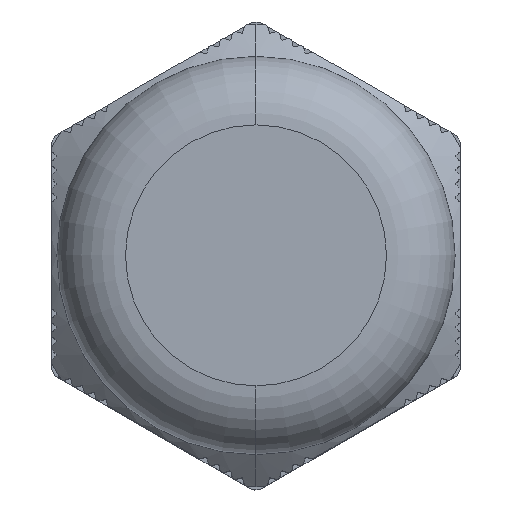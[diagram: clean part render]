
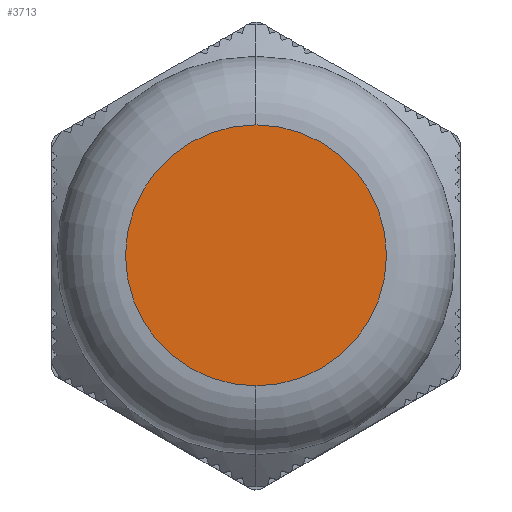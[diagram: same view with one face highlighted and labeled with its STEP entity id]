
A CAD part, top view. The second image highlights one B-rep face of the part: STEP entity #3713.
In plain terms, the highlighted planar face has unit normal (0, 0, 1).
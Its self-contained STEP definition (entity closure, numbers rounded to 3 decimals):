
#126 = AXIS2_PLACEMENT_3D ( 'NONE', #765, #7810, #1765 ) ;
#425 = VERTEX_POINT ( 'NONE', #6627 ) ;
#518 = CARTESIAN_POINT ( 'NONE',  ( 0., -13.3, 56.321 ) ) ;
#765 = CARTESIAN_POINT ( 'NONE',  ( 0., 0., 56.321 ) ) ;
#801 = ORIENTED_EDGE ( 'NONE', *, *, #9404, .F. ) ;
#1327 = ORIENTED_EDGE ( 'NONE', *, *, #3700, .F. ) ;
#1765 = DIRECTION ( 'NONE',  ( -1., 0., 0. ) ) ;
#1858 = EDGE_LOOP ( 'NONE', ( #801, #1327 ) ) ;
#2147 = AXIS2_PLACEMENT_3D ( 'NONE', #11807, #8808, #2777 ) ;
#2777 = DIRECTION ( 'NONE',  ( 0., -1., 0. ) ) ;
#3700 = EDGE_CURVE ( 'NONE', #425, #11783, #9773, .T. ) ;
#3713 = ADVANCED_FACE ( 'NONE', ( #12437 ), #12834, .T. ) ;
#4049 = AXIS2_PLACEMENT_3D ( 'NONE', #11855, #5837, #12875 ) ;
#5837 = DIRECTION ( 'NONE',  ( 0., 0., -1. ) ) ;
#6627 = CARTESIAN_POINT ( 'NONE',  ( 0., 13.3, 56.321 ) ) ;
#7249 = CIRCLE ( 'NONE', #4049, 13.3 ) ;
#7810 = DIRECTION ( 'NONE',  ( 0., 0., -1. ) ) ;
#8808 = DIRECTION ( 'NONE',  ( 0., 0., 1. ) ) ;
#9404 = EDGE_CURVE ( 'NONE', #11783, #425, #7249, .T. ) ;
#9773 = CIRCLE ( 'NONE', #126, 13.3 ) ;
#11783 = VERTEX_POINT ( 'NONE', #518 ) ;
#11807 = CARTESIAN_POINT ( 'NONE',  ( 0., 0., 56.321 ) ) ;
#11855 = CARTESIAN_POINT ( 'NONE',  ( 0., 0., 56.321 ) ) ;
#12437 = FACE_OUTER_BOUND ( 'NONE', #1858, .T. ) ;
#12834 = PLANE ( 'NONE',  #2147 ) ;
#12875 = DIRECTION ( 'NONE',  ( -1., 0., 0. ) ) ;
